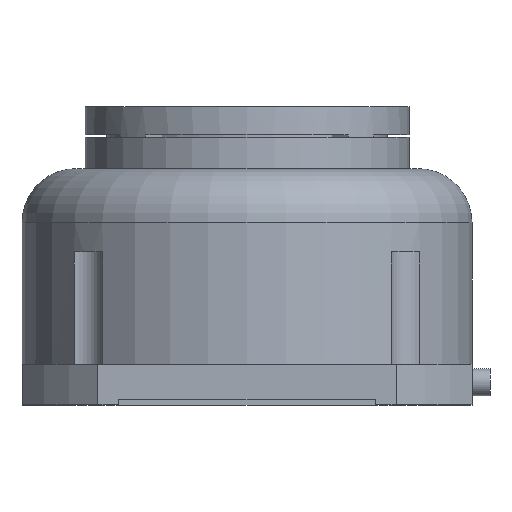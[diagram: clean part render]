
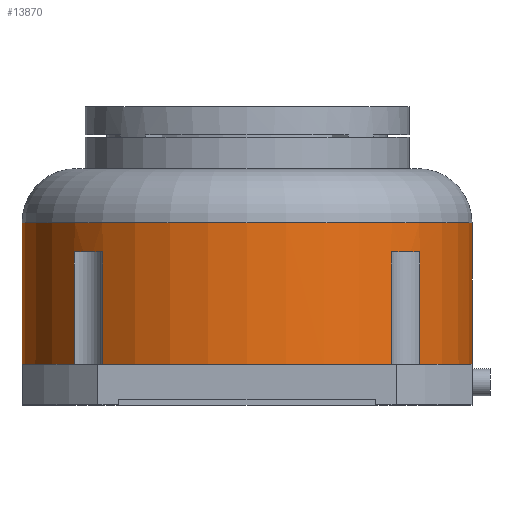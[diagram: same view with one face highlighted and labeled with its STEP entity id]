
A CAD part, front view. The second image highlights one B-rep face of the part: STEP entity #13870.
In plain terms, the highlighted cylindrical face has radius 50 mm (diameter 100 mm), a partial arc.
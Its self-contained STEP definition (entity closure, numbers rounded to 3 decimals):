
#50 = CARTESIAN_POINT ( 'NONE',  ( 0., 0., 9. ) ) ;
#802 = VERTEX_POINT ( 'NONE', #6403 ) ;
#805 = CARTESIAN_POINT ( 'NONE',  ( 0., 0., 34. ) ) ;
#1008 = LINE ( 'NONE', #7314, #17057 ) ;
#1023 = CIRCLE ( 'NONE', #9719, 50. ) ;
#1083 = VERTEX_POINT ( 'NONE', #13737 ) ;
#1162 = CARTESIAN_POINT ( 'NONE',  ( 32.068, -38.362, 21.5 ) ) ;
#1320 = CIRCLE ( 'NONE', #2577, 50. ) ;
#1456 = ORIENTED_EDGE ( 'NONE', *, *, #22707, .T. ) ;
#1731 = AXIS2_PLACEMENT_3D ( 'NONE', #16860, #4303, #18957 ) ;
#1741 = ORIENTED_EDGE ( 'NONE', *, *, #17117, .T. ) ;
#2170 = DIRECTION ( 'NONE',  ( 1., 0., 0. ) ) ;
#2337 = CARTESIAN_POINT ( 'NONE',  ( 32.068, -38.362, 9. ) ) ;
#2577 = AXIS2_PLACEMENT_3D ( 'NONE', #15604, #3044, #17720 ) ;
#2909 = DIRECTION ( 'NONE',  ( 1., 0., 0. ) ) ;
#3044 = DIRECTION ( 'NONE',  ( 0., 0., 1. ) ) ;
#4303 = DIRECTION ( 'NONE',  ( 0., 0., -1. ) ) ;
#5947 = DIRECTION ( 'NONE',  ( 0., 0., -1. ) ) ;
#6403 = CARTESIAN_POINT ( 'NONE',  ( -38.362, -32.068, 34. ) ) ;
#6875 = DIRECTION ( 'NONE',  ( 0., 0., 1. ) ) ;
#7314 = CARTESIAN_POINT ( 'NONE',  ( 50., 0., 59.5 ) ) ;
#8058 = CIRCLE ( 'NONE', #12784, 50. ) ;
#8089 = VERTEX_POINT ( 'NONE', #2337 ) ;
#8627 = VERTEX_POINT ( 'NONE', #12695 ) ;
#8850 = VECTOR ( 'NONE', #6875, 1000. ) ;
#8866 = DIRECTION ( 'NONE',  ( 0., 0., -1. ) ) ;
#8962 = CARTESIAN_POINT ( 'NONE',  ( -38.362, -32.068, 21.5 ) ) ;
#9126 = AXIS2_PLACEMENT_3D ( 'NONE', #22979, #10390, #25120 ) ;
#9376 = EDGE_CURVE ( 'NONE', #16221, #24421, #1008, .T. ) ;
#9719 = AXIS2_PLACEMENT_3D ( 'NONE', #805, #15449, #2909 ) ;
#10271 = ORIENTED_EDGE ( 'NONE', *, *, #19216, .T. ) ;
#10370 = LINE ( 'NONE', #12176, #26495 ) ;
#10390 = DIRECTION ( 'NONE',  ( 0., 0., 1. ) ) ;
#10452 = VERTEX_POINT ( 'NONE', #21086 ) ;
#10794 = ORIENTED_EDGE ( 'NONE', *, *, #17217, .F. ) ;
#10922 = LINE ( 'NONE', #1162, #22085 ) ;
#10995 = CARTESIAN_POINT ( 'NONE',  ( -50., 0., 40.5 ) ) ;
#11559 = DIRECTION ( 'NONE',  ( 0., 0., -1. ) ) ;
#11814 = AXIS2_PLACEMENT_3D ( 'NONE', #21157, #25423, #14835 ) ;
#12105 = CARTESIAN_POINT ( 'NONE',  ( 38.362, -32.068, 9. ) ) ;
#12176 = CARTESIAN_POINT ( 'NONE',  ( 38.362, -32.068, 21.5 ) ) ;
#12183 = CARTESIAN_POINT ( 'NONE',  ( 32.068, -38.362, 34. ) ) ;
#12379 = VERTEX_POINT ( 'NONE', #14133 ) ;
#12496 = CARTESIAN_POINT ( 'NONE',  ( 38.362, -32.068, 34. ) ) ;
#12695 = CARTESIAN_POINT ( 'NONE',  ( -32.068, -38.362, 34. ) ) ;
#12784 = AXIS2_PLACEMENT_3D ( 'NONE', #50, #14706, #2170 ) ;
#12879 = FACE_OUTER_BOUND ( 'NONE', #17524, .T. ) ;
#13737 = CARTESIAN_POINT ( 'NONE',  ( -38.362, -32.068, 9. ) ) ;
#13870 = ADVANCED_FACE ( 'NONE', ( #12879 ), #17816, .T. ) ;
#13976 = CIRCLE ( 'NONE', #1731, 50. ) ;
#14133 = CARTESIAN_POINT ( 'NONE',  ( -32.068, -38.362, 9. ) ) ;
#14706 = DIRECTION ( 'NONE',  ( 0., 0., 1. ) ) ;
#14835 = DIRECTION ( 'NONE',  ( -1., 0., 0. ) ) ;
#14852 = ORIENTED_EDGE ( 'NONE', *, *, #15005, .T. ) ;
#15005 = EDGE_CURVE ( 'NONE', #20207, #22402, #1023, .T. ) ;
#15157 = ORIENTED_EDGE ( 'NONE', *, *, #15658, .T. ) ;
#15449 = DIRECTION ( 'NONE',  ( 0., 0., 1. ) ) ;
#15604 = CARTESIAN_POINT ( 'NONE',  ( 0., 0., 9. ) ) ;
#15658 = EDGE_CURVE ( 'NONE', #12379, #8089, #1320, .T. ) ;
#15791 = CIRCLE ( 'NONE', #20652, 50. ) ;
#16048 = CARTESIAN_POINT ( 'NONE',  ( 50., 0., 40.5 ) ) ;
#16221 = VERTEX_POINT ( 'NONE', #16048 ) ;
#16860 = CARTESIAN_POINT ( 'NONE',  ( 0., 0., 34. ) ) ;
#17057 = VECTOR ( 'NONE', #22000, 1000. ) ;
#17117 = EDGE_CURVE ( 'NONE', #22402, #18492, #10370, .T. ) ;
#17217 = EDGE_CURVE ( 'NONE', #8627, #802, #13976, .T. ) ;
#17524 = EDGE_LOOP ( 'NONE', ( #23844, #20046, #27178, #10271, #18134, #10794, #1456, #15157, #20437, #14852, #1741, #23555 ) ) ;
#17567 = VECTOR ( 'NONE', #11559, 1000. ) ;
#17720 = DIRECTION ( 'NONE',  ( 1., 0., 0. ) ) ;
#17816 = CYLINDRICAL_SURFACE ( 'NONE', #11814, 50. ) ;
#17817 = DIRECTION ( 'NONE',  ( 0., 0., 1. ) ) ;
#18079 = CARTESIAN_POINT ( 'NONE',  ( -50., 0., 59.5 ) ) ;
#18134 = ORIENTED_EDGE ( 'NONE', *, *, #20992, .T. ) ;
#18235 = VERTEX_POINT ( 'NONE', #10995 ) ;
#18492 = VERTEX_POINT ( 'NONE', #12105 ) ;
#18543 = DIRECTION ( 'NONE',  ( 0., 0., -1. ) ) ;
#18957 = DIRECTION ( 'NONE',  ( -1., 0., 0. ) ) ;
#19216 = EDGE_CURVE ( 'NONE', #10452, #1083, #24444, .T. ) ;
#19548 = EDGE_CURVE ( 'NONE', #8089, #20207, #10922, .T. ) ;
#19913 = CARTESIAN_POINT ( 'NONE',  ( -32.068, -38.362, 21.5 ) ) ;
#20028 = LINE ( 'NONE', #8962, #8850 ) ;
#20046 = ORIENTED_EDGE ( 'NONE', *, *, #20949, .T. ) ;
#20207 = VERTEX_POINT ( 'NONE', #12183 ) ;
#20437 = ORIENTED_EDGE ( 'NONE', *, *, #19548, .T. ) ;
#20652 = AXIS2_PLACEMENT_3D ( 'NONE', #21464, #8866, #23596 ) ;
#20949 = EDGE_CURVE ( 'NONE', #16221, #18235, #15791, .T. ) ;
#20992 = EDGE_CURVE ( 'NONE', #1083, #802, #20028, .T. ) ;
#21086 = CARTESIAN_POINT ( 'NONE',  ( -50., 0., 9. ) ) ;
#21157 = CARTESIAN_POINT ( 'NONE',  ( 0., 0., 59.5 ) ) ;
#21464 = CARTESIAN_POINT ( 'NONE',  ( 0., 0., 40.5 ) ) ;
#21477 = VECTOR ( 'NONE', #18543, 1000. ) ;
#22000 = DIRECTION ( 'NONE',  ( 0., 0., -1. ) ) ;
#22085 = VECTOR ( 'NONE', #17817, 1000. ) ;
#22402 = VERTEX_POINT ( 'NONE', #12496 ) ;
#22403 = EDGE_CURVE ( 'NONE', #18492, #24421, #8058, .T. ) ;
#22707 = EDGE_CURVE ( 'NONE', #8627, #12379, #23157, .T. ) ;
#22979 = CARTESIAN_POINT ( 'NONE',  ( 0., 0., 9. ) ) ;
#23036 = EDGE_CURVE ( 'NONE', #18235, #10452, #27090, .T. ) ;
#23157 = LINE ( 'NONE', #19913, #17567 ) ;
#23555 = ORIENTED_EDGE ( 'NONE', *, *, #22403, .T. ) ;
#23596 = DIRECTION ( 'NONE',  ( -1., 0., 0. ) ) ;
#23844 = ORIENTED_EDGE ( 'NONE', *, *, #9376, .F. ) ;
#24421 = VERTEX_POINT ( 'NONE', #25459 ) ;
#24444 = CIRCLE ( 'NONE', #9126, 50. ) ;
#25120 = DIRECTION ( 'NONE',  ( 1., 0., 0. ) ) ;
#25423 = DIRECTION ( 'NONE',  ( 0., 0., -1. ) ) ;
#25459 = CARTESIAN_POINT ( 'NONE',  ( 50., 0., 9. ) ) ;
#26495 = VECTOR ( 'NONE', #5947, 1000. ) ;
#27090 = LINE ( 'NONE', #18079, #21477 ) ;
#27178 = ORIENTED_EDGE ( 'NONE', *, *, #23036, .T. ) ;
